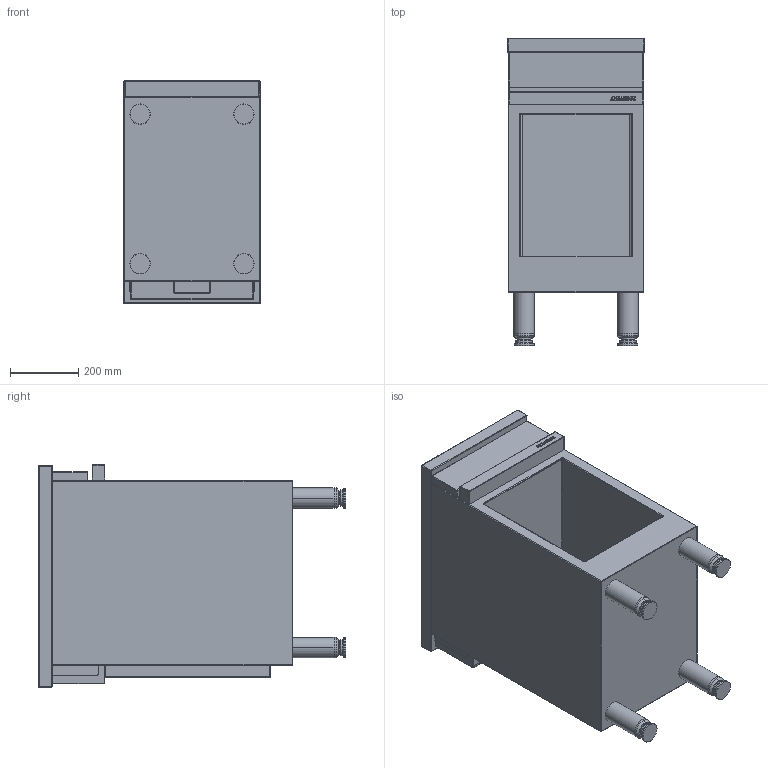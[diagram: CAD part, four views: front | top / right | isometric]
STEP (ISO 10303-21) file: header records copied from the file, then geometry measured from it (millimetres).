
FILE_DESCRIPTION((''),'2;1');
FILE_NAME('CMA400P_EXPORT_STEP_ASM','2017-11-22T',('r.avril'),(''),'PRO/ENGINEER BY PARAMETRIC TECHNOLOGY CORPORATION, 2014200','PRO/ENGINEER BY PARAMETRIC TECHNOLOGY CORPORATION, 2014200','');
FILE_SCHEMA(('AP203_CONFIGURATION_CONTROLLED_3D_DESIGN_OF_MECHANICAL_PARTS_AND_ASSEMBLIES_MIM_LF { 1 0 10303 403 2 1 2 }'));
Length unit declared in the file: millimetre
Products named in the file (3): MODULES_AMB_400_EXPORT_STEP; TABLE_400_NEUTRE; CMA400P_EXPORT_STEP_ASM
Assembly tree (2 placements, depth 2):
  CMA400P_EXPORT_STEP_ASM
    MODULES_AMB_400_EXPORT_STEP
    TABLE_400_NEUTRE
Bounding box: 400 x 900 x 652.1 mm (x, y, z)
Volume: 56968583.6 mm3; surface area: 3899467.2 mm2
Topology: 8 solids, 26 shells, 303 faces, 1287 edges, 1272 vertices
Faces by surface type: cylinder 121, plane 102, sphere 36, torus 28, cone 16
Entity records: 16141 total; most frequent: CARTESIAN_POINT 4365, DIRECTION 1878, ORIENTED_EDGE 1640, EDGE_CURVE 1045, VERTEX_POINT 788, AXIS2_PLACEMENT_3D 643, VECTOR 583, LINE 583
